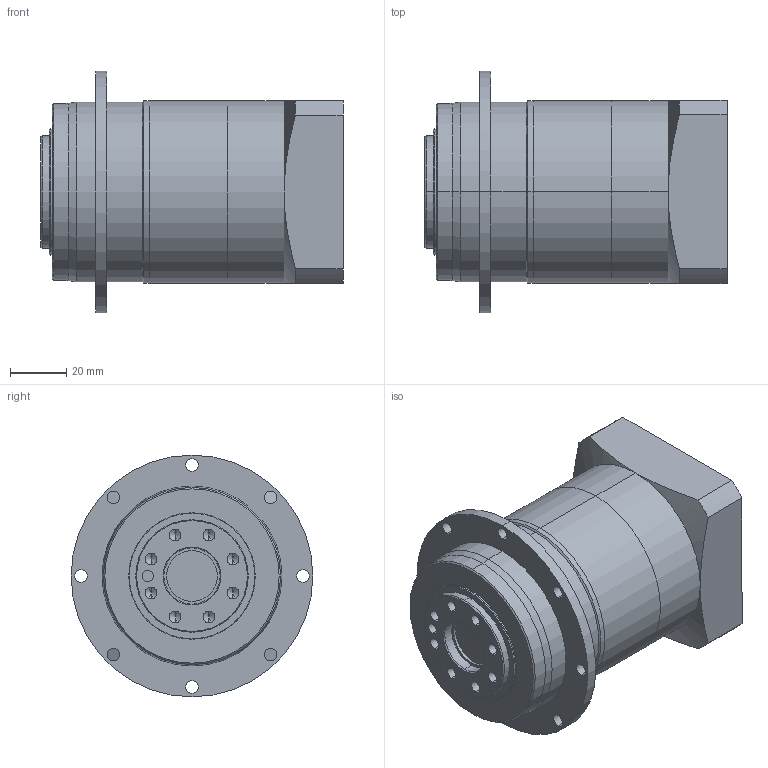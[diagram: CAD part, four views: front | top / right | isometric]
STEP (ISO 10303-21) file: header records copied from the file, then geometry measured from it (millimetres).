
FILE_DESCRIPTION (( 'STEP AP203' ), '1' );
FILE_NAME ('TD-060-L2-14-50-70-M5.STEP', '2025-06-07T03:00:20', ( 'Microsoft' ), ( 'Microsoft' ), 'SwSTEP 2.0', 'SolidWorks 2016', '' );
FILE_SCHEMA (( 'CONFIG_CONTROL_DESIGN' ));
Length unit declared in the file: millimetre
Products named in the file (1): TD-060-L2-14-50-70-M5
Bounding box: 107.5 x 86 x 86 mm (x, y, z)
Volume: 338674.9 mm3; surface area: 58038.5 mm2
Topology: 3 solids, 3 shells, 139 faces, 318 edges, 184 vertices
Faces by surface type: cylinder 76, cone 42, plane 21
Entity records: 3917 total; most frequent: DIRECTION 730, CARTESIAN_POINT 682, ORIENTED_EDGE 588, AXIS2_PLACEMENT_3D 304, EDGE_CURVE 294, VERTEX_POINT 184, EDGE_LOOP 178, CIRCLE 164
